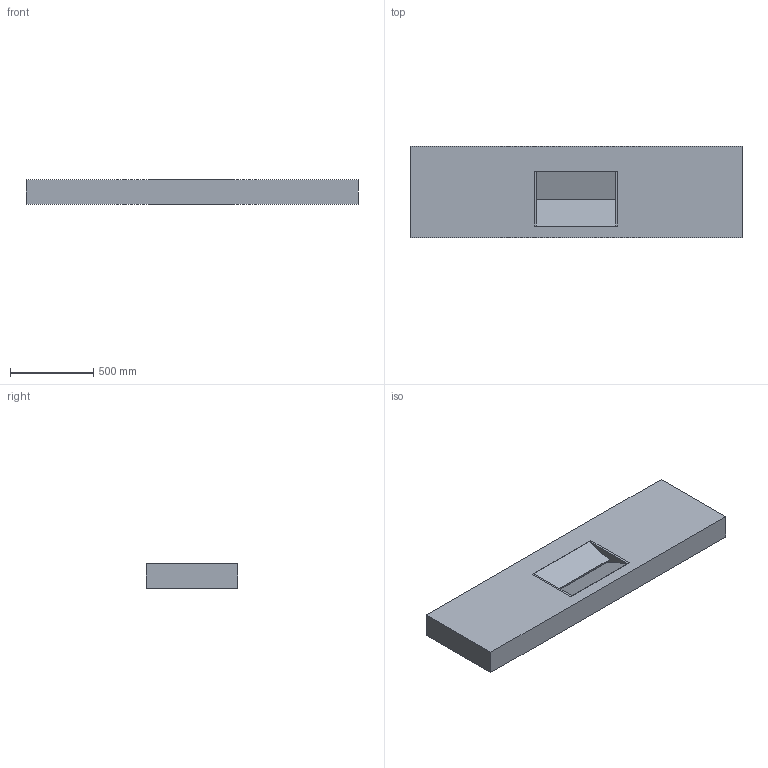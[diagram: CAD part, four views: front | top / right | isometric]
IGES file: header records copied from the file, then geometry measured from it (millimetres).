
Start section:  Autodesk Design for Windows version 2010 IGES version 5.3  Autodesk Design for Windows version 2010 IGES version 5.3
Global section: file name: D:\Desktop\GIOVANNI\SCHEDE PRODOTTO\PIANI LAVABO\HORIZONTAL\3D\MOMA DESIGN_PIANI LAVABO_HORIZONTAL SYSTEM.igs; native system: Rhinoceros ( Jan 17 2018 ); preprocessor: Trout Lake IGES 012 Jan 17 2018; date: 230606.142105; units: millimetre
Bounding box: 2000 x 550 x 150 mm (x, y, z)
Surface area: 3594414.2 mm2 (no closed solid volume)
Topology: 0 solids, 0 shells, 50 faces, 268 edges, 268 vertices
Faces by surface type: bspline 50
